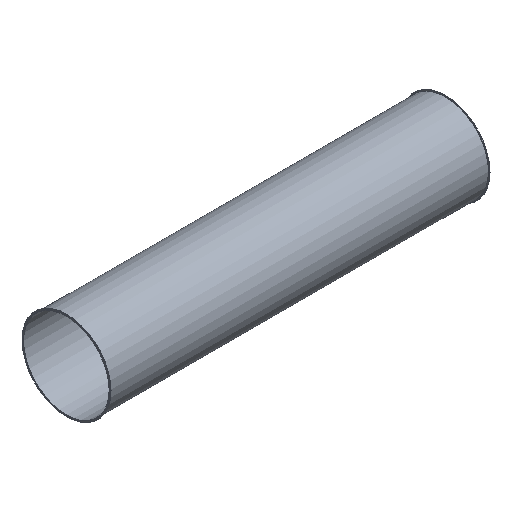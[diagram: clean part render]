
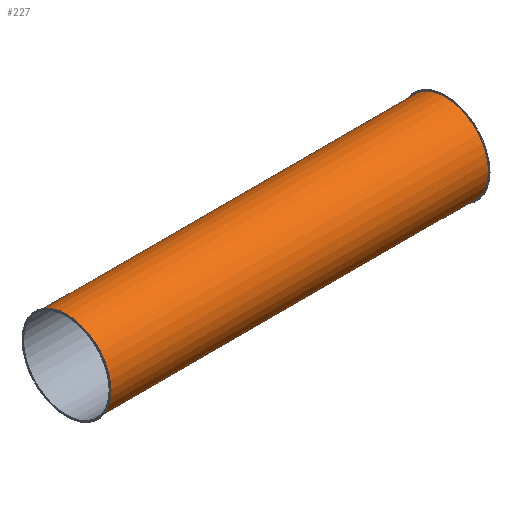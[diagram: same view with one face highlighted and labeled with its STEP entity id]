
A CAD part, isometric view. The second image highlights one B-rep face of the part: STEP entity #227.
In plain terms, the highlighted cylindrical face has radius 226 mm (diameter 452 mm), a full revolution.
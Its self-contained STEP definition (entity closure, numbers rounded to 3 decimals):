
#112=CARTESIAN_POINT('',(-31.741,2.915,0.0));
#113=VERTEX_POINT('',#112);
#114=CARTESIAN_POINT('',(-31.741,228.915,0.0));
#115=DIRECTION('',(-1.0,0.0,0.0));
#116=DIRECTION('',(0.0,-1.0,0.0));
#117=AXIS2_PLACEMENT_3D('',#114,#115,#116);
#118=CIRCLE('',#117,226.0);
#119=EDGE_CURVE('',#113,#113,#118,.T.);
#204=CARTESIAN_POINT('',(1950.259,2.915,0.0));
#205=VERTEX_POINT('',#204);
#206=CARTESIAN_POINT('',(1950.259,228.915,0.0));
#207=DIRECTION('',(-1.0,0.0,0.0));
#208=DIRECTION('',(0.0,-1.0,0.0));
#209=AXIS2_PLACEMENT_3D('',#206,#207,#208);
#210=CIRCLE('',#209,226.);
#211=EDGE_CURVE('',#205,#205,#210,.T.);
#216=CARTESIAN_POINT('',(959.259,228.915,0.0));
#217=DIRECTION('',(-1.0,0.,0.0));
#218=DIRECTION('',(0.0,-1.0,0.0));
#219=AXIS2_PLACEMENT_3D('',#216,#217,#218);
#220=CYLINDRICAL_SURFACE('',#219,226.);
#221=ORIENTED_EDGE('',*,*,#119,.F.);
#222=EDGE_LOOP('',(#221));
#223=FACE_OUTER_BOUND('',#222,.T.);
#224=ORIENTED_EDGE('',*,*,#211,.T.);
#225=EDGE_LOOP('',(#224));
#226=FACE_BOUND('',#225,.T.);
#227=ADVANCED_FACE('',(#223,#226),#220,.T.);
